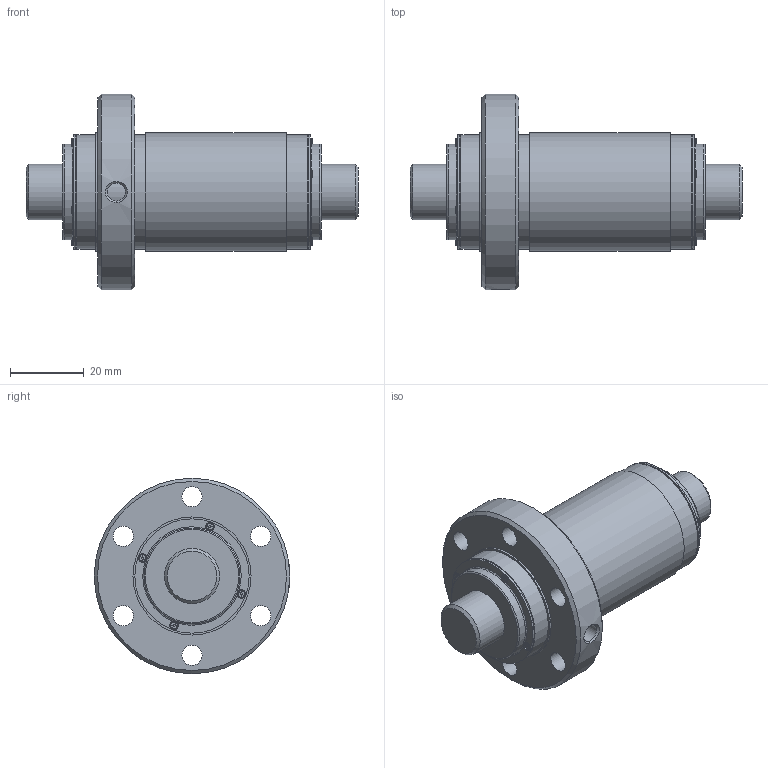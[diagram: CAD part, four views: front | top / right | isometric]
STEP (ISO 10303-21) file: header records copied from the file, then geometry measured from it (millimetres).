
FILE_DESCRIPTION(/* description */ ('STEP AP203'),/* implementation_level */ '2;1');
FILE_NAME(/* name */ 'CNF1530-6ZZ+90LC7T_000_rev',/* time_stamp */ '2025-06-11T06:43:58+02:00',/* author */ ('License CC BY-ND 4.0'),/* organization */ ('CADENAS'),/* preprocessor_version */ 'ST-DEVELOPER v19.3',/* originating_system */ 'PARTsolutions',/* authorisation */ ' ');
FILE_SCHEMA (('CONFIG_CONTROL_DESIGN'));
Length unit declared in the file: millimetre
Products named in the file (3): CNF1530-6ZZ+90LC7T_000_rev; CNF1530-60ZZ0 Shaft; CNF1530-6ZZ Nut
Assembly tree (2 placements, depth 2):
  CNF1530-6ZZ+90LC7T_000_rev
    CNF1530-60ZZ0 Shaft
    CNF1530-6ZZ Nut
Bounding box: 90 x 53 x 53 mm (x, y, z)
Volume: 69537.1 mm3; surface area: 20445.2 mm2
Topology: 2 solids, 2 shells, 203 faces, 528 edges, 346 vertices
Faces by surface type: plane 125, cylinder 59, torus 12, cone 7
Full cylindrical faces by diameter (mm): 2.24 x8, 4.917 x1, 5.5 x6, 15 x2, 26 x2, 31 x5, 32 x2, 53 x1
Entity records: 6009 total; most frequent: CARTESIAN_POINT 1064, DIRECTION 1014, ORIENTED_EDGE 942, EDGE_CURVE 471, AXIS2_PLACEMENT_3D 347, VERTEX_POINT 335, LINE 320, VECTOR 320
